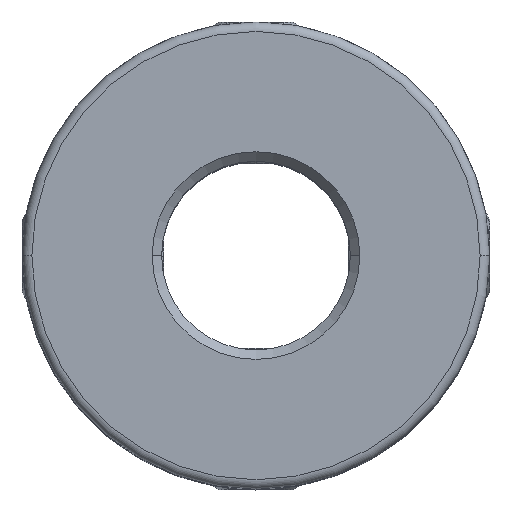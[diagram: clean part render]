
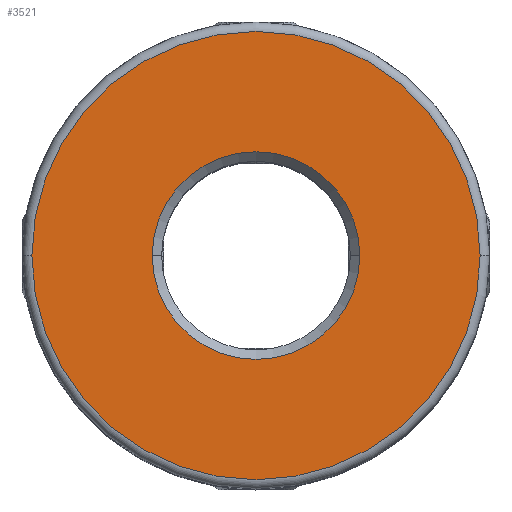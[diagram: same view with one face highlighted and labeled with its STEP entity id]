
A CAD part, top view. The second image highlights one B-rep face of the part: STEP entity #3521.
In plain terms, the highlighted planar face has unit normal (0, 0, 1).
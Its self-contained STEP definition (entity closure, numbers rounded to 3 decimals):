
#451 = CIRCLE ( 'NONE', #1676, 2.2 ) ;
#489 = DIRECTION ( 'NONE',  ( 1., 0., 0. ) ) ;
#595 = CARTESIAN_POINT ( 'NONE',  ( 0., 0., 5.2 ) ) ;
#718 = VERTEX_POINT ( 'NONE', #4895 ) ;
#972 = CIRCLE ( 'NONE', #5599, 4.75 ) ;
#991 = EDGE_LOOP ( 'NONE', ( #6594, #6353 ) ) ;
#1317 = DIRECTION ( 'NONE',  ( 0., 0., -1. ) ) ;
#1513 = EDGE_CURVE ( 'NONE', #2597, #718, #972, .T. ) ;
#1579 = FACE_BOUND ( 'NONE', #991, .T. ) ;
#1594 = AXIS2_PLACEMENT_3D ( 'NONE', #4188, #2104, #2658 ) ;
#1602 = PLANE ( 'NONE',  #1594 ) ;
#1676 = AXIS2_PLACEMENT_3D ( 'NONE', #3415, #1317, #5450 ) ;
#2104 = DIRECTION ( 'NONE',  ( 0., 0., 1. ) ) ;
#2571 = CARTESIAN_POINT ( 'NONE',  ( -2.2, 0., 5.2 ) ) ;
#2584 = VERTEX_POINT ( 'NONE', #2571 ) ;
#2597 = VERTEX_POINT ( 'NONE', #6658 ) ;
#2658 = DIRECTION ( 'NONE',  ( 1., 0., 0. ) ) ;
#2913 = EDGE_CURVE ( 'NONE', #6323, #2584, #451, .T. ) ;
#3260 = DIRECTION ( 'NONE',  ( 1., 0., 0. ) ) ;
#3412 = AXIS2_PLACEMENT_3D ( 'NONE', #595, #3718, #3260 ) ;
#3415 = CARTESIAN_POINT ( 'NONE',  ( 0., 0., 5.2 ) ) ;
#3521 = ADVANCED_FACE ( 'NONE', ( #5870, #1579 ), #1602, .T. ) ;
#3718 = DIRECTION ( 'NONE',  ( 0., 0., -1. ) ) ;
#3884 = EDGE_CURVE ( 'NONE', #718, #2597, #4859, .T. ) ;
#4188 = CARTESIAN_POINT ( 'NONE',  ( 0., 0., 5.2 ) ) ;
#4505 = ORIENTED_EDGE ( 'NONE', *, *, #3884, .T. ) ;
#4601 = EDGE_CURVE ( 'NONE', #2584, #6323, #6173, .T. ) ;
#4859 = CIRCLE ( 'NONE', #6372, 4.75 ) ;
#4895 = CARTESIAN_POINT ( 'NONE',  ( -4.75, 0., 5.2 ) ) ;
#5114 = CARTESIAN_POINT ( 'NONE',  ( 2.2, 0., 5.2 ) ) ;
#5125 = CARTESIAN_POINT ( 'NONE',  ( 0., 0., 5.2 ) ) ;
#5171 = EDGE_LOOP ( 'NONE', ( #6335, #4505 ) ) ;
#5450 = DIRECTION ( 'NONE',  ( 1., 0., 0. ) ) ;
#5525 = DIRECTION ( 'NONE',  ( 0., 0., 1. ) ) ;
#5599 = AXIS2_PLACEMENT_3D ( 'NONE', #6675, #5525, #6652 ) ;
#5870 = FACE_OUTER_BOUND ( 'NONE', #5171, .T. ) ;
#6173 = CIRCLE ( 'NONE', #3412, 2.2 ) ;
#6189 = DIRECTION ( 'NONE',  ( 0., 0., 1. ) ) ;
#6323 = VERTEX_POINT ( 'NONE', #5114 ) ;
#6335 = ORIENTED_EDGE ( 'NONE', *, *, #1513, .T. ) ;
#6353 = ORIENTED_EDGE ( 'NONE', *, *, #4601, .T. ) ;
#6372 = AXIS2_PLACEMENT_3D ( 'NONE', #5125, #6189, #489 ) ;
#6594 = ORIENTED_EDGE ( 'NONE', *, *, #2913, .T. ) ;
#6652 = DIRECTION ( 'NONE',  ( 1., 0., 0. ) ) ;
#6658 = CARTESIAN_POINT ( 'NONE',  ( 4.75, 0., 5.2 ) ) ;
#6675 = CARTESIAN_POINT ( 'NONE',  ( 0., 0., 5.2 ) ) ;
